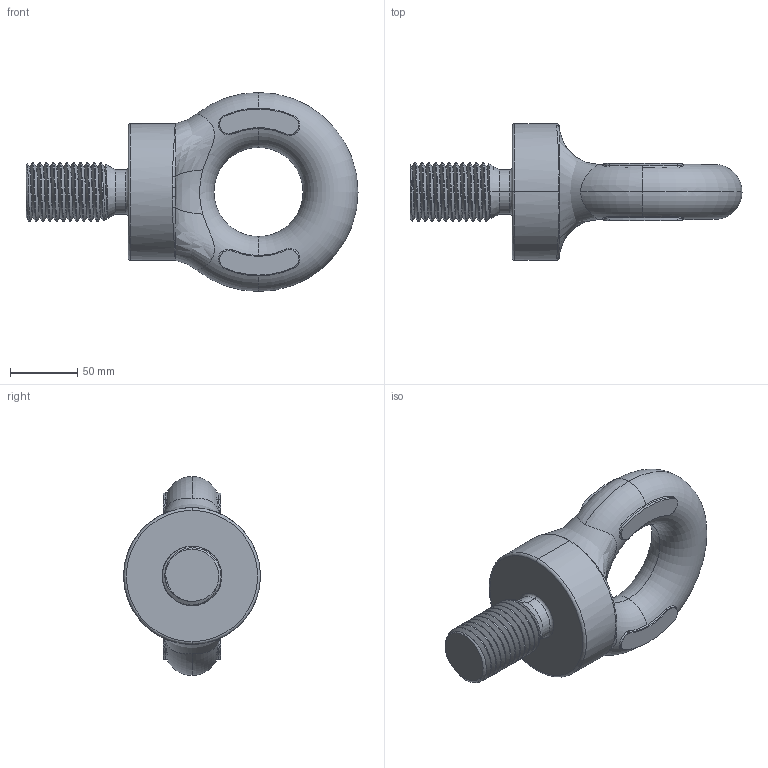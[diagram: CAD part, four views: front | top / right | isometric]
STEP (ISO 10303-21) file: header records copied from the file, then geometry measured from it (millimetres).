
FILE_DESCRIPTION (( 'STEP AP203' ), '1' );
FILE_NAME ('EBW1750.STEP', '2014-02-24T04:19:17', ( '' ), ( '' ), 'SwSTEP 2.0', 'SolidWorks 2012', '' );
FILE_SCHEMA (( 'CONFIG_CONTROL_DESIGN' ));
Length unit declared in the file: millimetre
Products named in the file (1): EBW1750
Bounding box: 247.7 x 102 x 148.5 mm (x, y, z)
Volume: 853017.1 mm3; surface area: 78456.1 mm2
Topology: 1 solids, 1 shells, 280 faces, 733 edges, 466 vertices
Faces by surface type: plane 113, bspline 81, cylinder 58, torus 25, cone 3
Entity records: 18862 total; most frequent: CARTESIAN_POINT 12605, ORIENTED_EDGE 1450, DIRECTION 1025, EDGE_CURVE 725, VERTEX_POINT 466, LINE 363, VECTOR 363, AXIS2_PLACEMENT_3D 331
